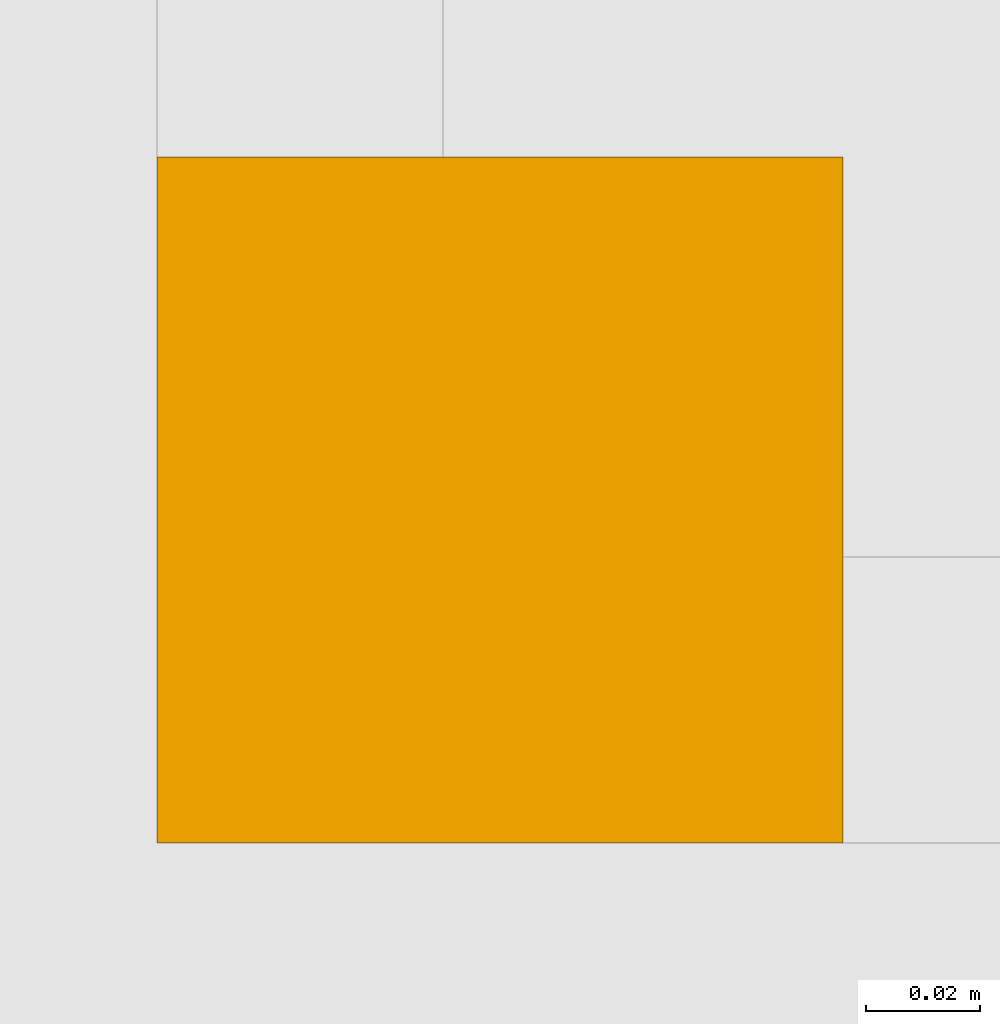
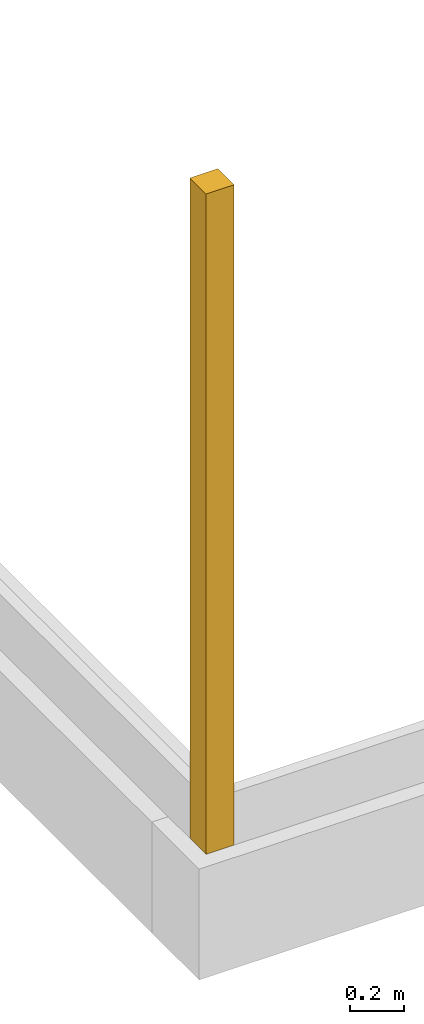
# One storey, part 10 of 11: 1 window.
"""IFC2X3 building model written with IfcOpenShell, lengths in millimetres."""

from ifc_helpers import new_model, entity, si_unit, converted_unit, derived_unit, direction, frame, frame_2d, origin, place, context, subcontext, project, spatial, rectangle, extrude, source, transform, mapped, material, type_object, type_shapes, element, save


model = new_model("IFC2X3")

# Units and contexts
model_context = context("Model", 3, precision=0.01, world=origin(), true_north=direction((6.12303176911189e-17, 1.0)))
body_context = subcontext(model_context, "Body", "Model", "MODEL_VIEW")
ifc_project = project(units=[si_unit("LENGTHUNIT", "METRE", prefix="MILLI"), si_unit("AREAUNIT", "SQUARE_METRE"), si_unit("VOLUMEUNIT", "CUBIC_METRE"), converted_unit("PLANEANGLEUNIT", "DEGREE", entity("IfcRatioMeasure", 0.0174532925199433), si_unit("PLANEANGLEUNIT", "RADIAN"), dimensions=[0, 0, 0, 0, 0, 0, 0]), si_unit("MASSUNIT", "GRAM", prefix="KILO"), derived_unit("MASSDENSITYUNIT", [(si_unit("MASSUNIT", "GRAM", prefix="KILO"), 1), (si_unit("LENGTHUNIT", "METRE"), -3)]), derived_unit("MOMENTOFINERTIAUNIT", [(si_unit("LENGTHUNIT", "METRE"), 4)]), si_unit("TIMEUNIT", "SECOND"), si_unit("FREQUENCYUNIT", "HERTZ"), si_unit("THERMODYNAMICTEMPERATUREUNIT", "DEGREE_CELSIUS"), derived_unit("THERMALTRANSMITTANCEUNIT", [(si_unit("MASSUNIT", "GRAM", prefix="KILO"), 1), (si_unit("THERMODYNAMICTEMPERATUREUNIT", "KELVIN"), -1), (si_unit("TIMEUNIT", "SECOND"), -3)]), derived_unit("VOLUMETRICFLOWRATEUNIT", [(si_unit("LENGTHUNIT", "METRE"), 3), (si_unit("TIMEUNIT", "SECOND"), -1)]), si_unit("ELECTRICCURRENTUNIT", "AMPERE"), si_unit("ELECTRICVOLTAGEUNIT", "VOLT"), si_unit("POWERUNIT", "WATT"), si_unit("FORCEUNIT", "NEWTON", prefix="KILO"), si_unit("ILLUMINANCEUNIT", "LUX"), si_unit("LUMINOUSFLUXUNIT", "LUMEN"), si_unit("LUMINOUSINTENSITYUNIT", "CANDELA"), derived_unit("USERDEFINED", [(si_unit("MASSUNIT", "GRAM", prefix="KILO"), -1), (si_unit("LENGTHUNIT", "METRE"), -2), (si_unit("TIMEUNIT", "SECOND"), 3), (si_unit("LUMINOUSFLUXUNIT", "LUMEN"), 1)]), derived_unit("LINEARVELOCITYUNIT", [(si_unit("LENGTHUNIT", "METRE"), 1), (si_unit("TIMEUNIT", "SECOND"), -1)]), si_unit("PRESSUREUNIT", "PASCAL"), derived_unit("USERDEFINED", [(si_unit("LENGTHUNIT", "METRE"), -2), (si_unit("MASSUNIT", "GRAM", prefix="KILO"), 1), (si_unit("TIMEUNIT", "SECOND"), -2)]), derived_unit("LINEARFORCEUNIT", [(si_unit("MASSUNIT", "GRAM", prefix="KILO"), 1), (si_unit("LENGTHUNIT", "METRE"), 1), (si_unit("TIMEUNIT", "SECOND"), -2), (si_unit("LENGTHUNIT", "METRE"), -1)]), derived_unit("PLANARFORCEUNIT", [(si_unit("MASSUNIT", "GRAM", prefix="KILO"), 1), (si_unit("LENGTHUNIT", "METRE"), 1), (si_unit("TIMEUNIT", "SECOND"), -2), (si_unit("LENGTHUNIT", "METRE"), -2)])], contexts=[model_context])

# Site, building, storey
site_placement = place(None, origin())
site = spatial("IfcSite", under=ifc_project, at=site_placement, Name="Default", CompositionType="ELEMENT")
building_placement = place(site_placement, origin())
building = spatial("IfcBuilding", under=site, at=building_placement, Name="-", CompositionType="ELEMENT")
storey_placement = place(building_placement, frame((0.0, 0.0, -780.0)))
storey = spatial("IfcBuildingStorey", under=building, at=storey_placement, Name="ok. fundering", CompositionType="ELEMENT", Elevation=-780.0)

# Window
ifc_material = material(Name="NLRS_i3_hout_Loofhout (hardhout) RAL 7035")
window_style = type_object("IfcWindowStyle", Name="Hoek glazen pui:Hoek glazen pui", ConstructionType="NOTDEFINED", OperationType="NOTDEFINED", ParameterTakesPrecedence=False, Sizeable=False, material=ifc_material)
shared_shape = source(origin(), body_context, "Body", "SweptSolid", [
    extrude(rectangle(XDim=120.000000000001, YDim=120.000000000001, at=frame_2d((7.105427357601e-15, -1.08357767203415e-12), x_axis=(1.0, 0.0))), frame((11391.5104288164, 116.121222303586, -280.0), z_axis=(0.0, 0.0, 1.0), x_axis=(0.0, -1.0, 0.0)), (0.0, 0.0, 1.0), 2980.00000000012),
])
type_shapes(window_style, [shared_shape])
window_placement = place(storey_placement, frame((0.0, 0.0, 780.0)))
element("IfcWindow", 1, at=window_placement, inside=storey, type_object=window_style, material=ifc_material, Name="Hoek glazen pui:Hoek glazen pui", ObjectType="Hoek glazen pui:Hoek glazen pui", OverallHeight=2980.00000000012, OverallWidth=120.000000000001, context=body_context, shape_type="MappedRepresentation", body=[
    mapped(shared_shape, transform((0.0, 0.0, 0.0), scale=1.0)),
])

save(model, "model.ifc")
